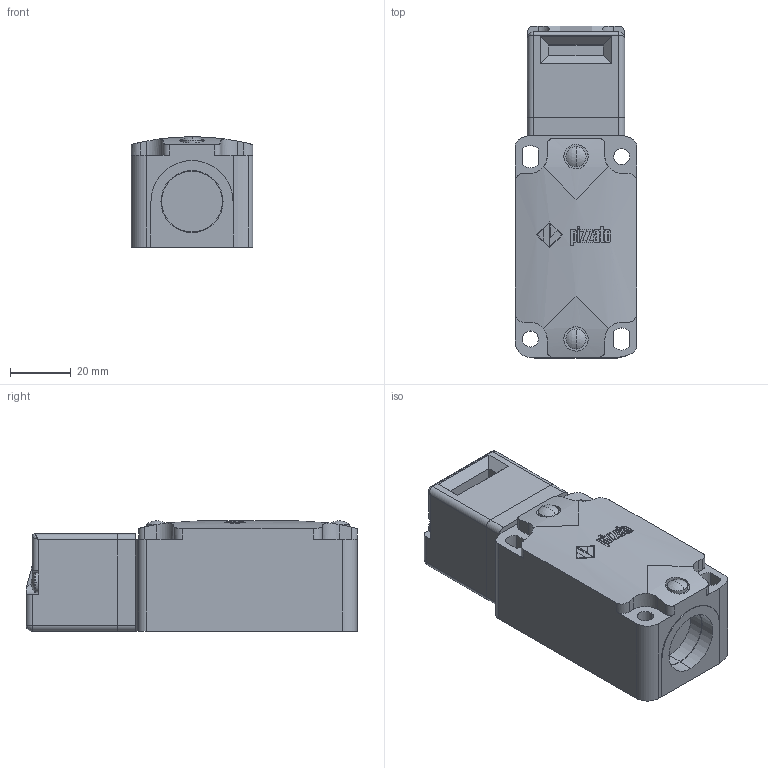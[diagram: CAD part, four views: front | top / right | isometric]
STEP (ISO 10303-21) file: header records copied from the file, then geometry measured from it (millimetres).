
FILE_DESCRIPTION (( 'STEP AP214' ), '1' );
FILE_NAME ('ZF_STEP_FD_x93_A10.step', '2014-04-10T09:02:44', ( 'utente' ), ( 'Microsoft' ), 'SwSTEP 2.0', 'SolidWorks 2013', '' );
FILE_SCHEMA (( 'AUTOMOTIVE_DESIGN' ));
Length unit declared in the file: millimetre
Products named in the file (5): ZF_STEP_VF_T93_FD-FP_A10; Pizzato_Supporto_T93_T96_TS96; Pizzato_Modulo_T93; Pizzato_Custodia_FD; ZF_STEP_FD_x93_A10
Assembly tree (4 placements, depth 3):
  ZF_STEP_FD_x93_A10
    Pizzato_Custodia_FD
    ZF_STEP_VF_T93_FD-FP_A10
      Pizzato_Modulo_T93
      Pizzato_Supporto_T93_T96_TS96
Bounding box: 40 x 109.2 x 36.3 mm (x, y, z)
Volume: 125638.9 mm3; surface area: 28539.7 mm2
Topology: 3 solids, 3 shells, 453 faces, 1194 edges, 784 vertices
Faces by surface type: plane 261, bspline 99, cylinder 79, sphere 10, torus 4
Entity records: 19290 total; most frequent: CARTESIAN_POINT 8547, ORIENTED_EDGE 2380, DIRECTION 1849, EDGE_CURVE 1190, VERTEX_POINT 784, VECTOR 727, LINE 727, AXIS2_PLACEMENT_3D 561
